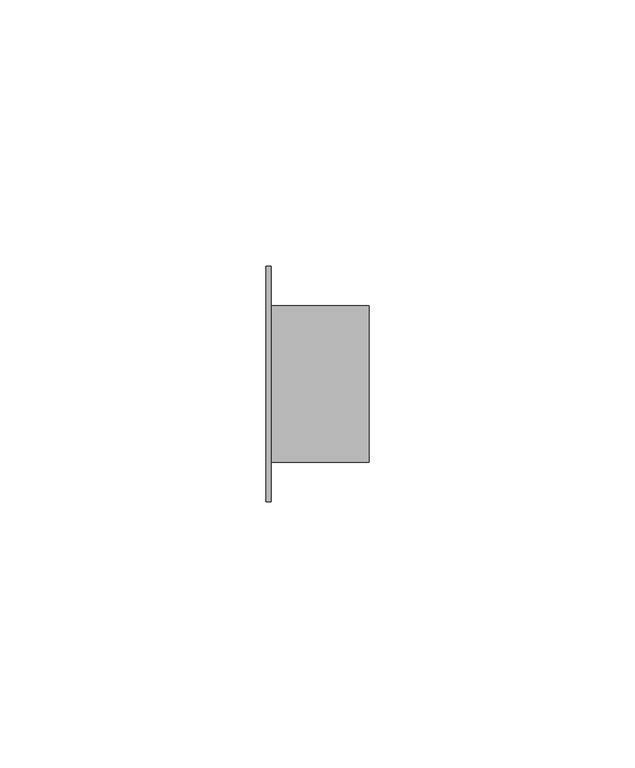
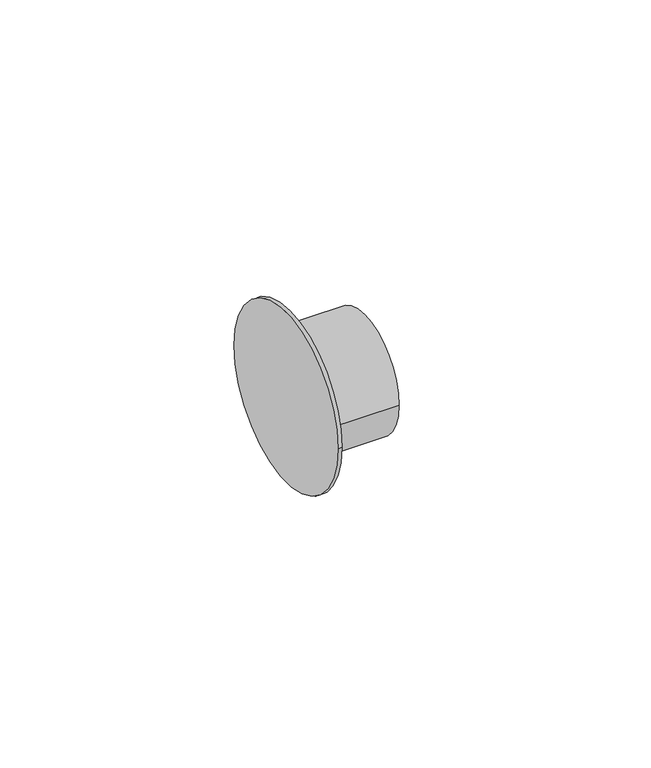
"""IFC4 building model written with IfcOpenShell, lengths in millimetres: pipe fitting geometry, Bucha de redução reta - Soldada - CU : Padrão."""

from ifc_helpers import new_model, si_unit, frame, origin, place, context, project, spatial, circle_curve, source, transform, mapped, element, save
from ifc_brep_helpers import plane_surface, cylinder_surface, advanced_brep


def pipe_fitting_c78fd4b3(model_context):
    return source(origin(), model_context, "Body", "AdvancedBrep", [
        advanced_brep(
        [(0.0, -22.15, 0.0), (0.0, 22.15, 0.0), (1.0, -22.15, 0.0), (1.0, 22.15, 0.0), (1.0, -14.7, 0.0), (1.0, 14.7, 0.0), (19.4, -14.7, 0.0), (19.4, 14.7, 0.0)],
        [
            (0, 1, circle_curve(frame((0.0, 0.0, 0.0), z_axis=(-1.0, 0.0, 0.0), x_axis=(0.0, 1.0, 0.0)), 22.15)),
            (1, 0, circle_curve(frame((0.0, 0.0, 0.0), z_axis=(-1.0, 0.0, 0.0), x_axis=(0.0, 1.0, 0.0)), 22.15)),
            (2, 3, circle_curve(frame((1.0, 0.0, 0.0), z_axis=(1.0, 0.0, 0.0), x_axis=(0.0, 1.0, 0.0)), 22.15)),
            (3, 2, circle_curve(frame((1.0, 0.0, 0.0), z_axis=(1.0, 0.0, 0.0), x_axis=(0.0, 1.0, 0.0)), 22.15)),
            (4, 5, circle_curve(frame((1.0, 0.0, 0.0), z_axis=(-1.0, 0.0, 0.0), x_axis=(0.0, 1.0, 0.0)), 14.7)),
            (5, 4, circle_curve(frame((1.0, 0.0, 0.0), z_axis=(-1.0, 0.0, 0.0), x_axis=(0.0, 1.0, 0.0)), 14.7)),
            (0, 2),
            (3, 1),
            (6, 7, circle_curve(frame((19.4, 0.0, 0.0), z_axis=(1.0, 0.0, 0.0), x_axis=(0.0, 1.0, 0.0)), 14.7)),
            (7, 6, circle_curve(frame((19.4, 0.0, 0.0), z_axis=(1.0, 0.0, 0.0), x_axis=(0.0, 1.0, 0.0)), 14.7)),
            (7, 5),
            (4, 6),
        ],
        [
            plane_surface(frame((0.0, 0.0, 0.0), z_axis=(-1.0, 0.0, 0.0), x_axis=(0.0, 0.0, 1.0))),
            plane_surface(frame((1.0, 0.0, 0.0), z_axis=(1.0, 0.0, 0.0), x_axis=(0.0, 0.0, 1.0))),
            cylinder_surface(frame((0.0, 0.0, 0.0), z_axis=(-1.0, 0.0, 0.0), x_axis=(0.0, 1.0, 0.0)), 22.15),
            plane_surface(frame((19.4, 0.0, 0.0), z_axis=(1.0, 0.0, 0.0), x_axis=(0.0, 0.0, 1.0))),
            cylinder_surface(frame((1.0, 0.0, 0.0), z_axis=(-1.0, 0.0, 0.0), x_axis=(0.0, 1.0, 0.0)), 14.7),
        ],
        [
            (0, [[1, 2]]),
            (1, [[3, 4], [5, 6]]),
            (2, [[-1, 7, -4, 8]]),
            (2, [[-2, -8, -3, -7]]),
            (3, [[9, 10]]),
            (4, [[-10, 11, -5, 12]]),
            (4, [[-9, -12, -6, -11]]),
        ],
    ),
    ])


if __name__ == "__main__":
    model = new_model("IFC4")
    model_context = context("Model", 3, world=origin())
    ifc_project = project(units=[si_unit("LENGTHUNIT", "METRE", prefix="MILLI")], contexts=[model_context])
    site = spatial("IfcSite", under=ifc_project)
    building = spatial("IfcBuilding", under=site)
    placement = place(None, origin())
    pipe_fitting_shape = pipe_fitting_c78fd4b3(model_context)
    element("IfcPipeFitting", 1, ObjectType="Bucha de redução reta - Soldada - CU : Padrão", at=placement, inside=building, context=model_context, shape_type="MappedRepresentation", body=[
        mapped(pipe_fitting_shape, transform((0.0, 0.0, 0.0), x_axis=(1.0, 0.0, 0.0), y_axis=(0.0, 1.0, 0.0), z_axis=(0.0, 0.0, 1.0))),
    ])
    save(model, "model.ifc")
